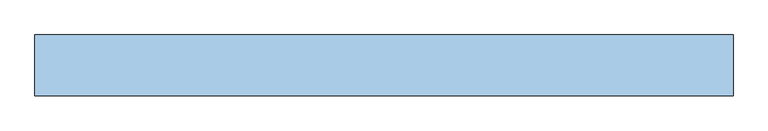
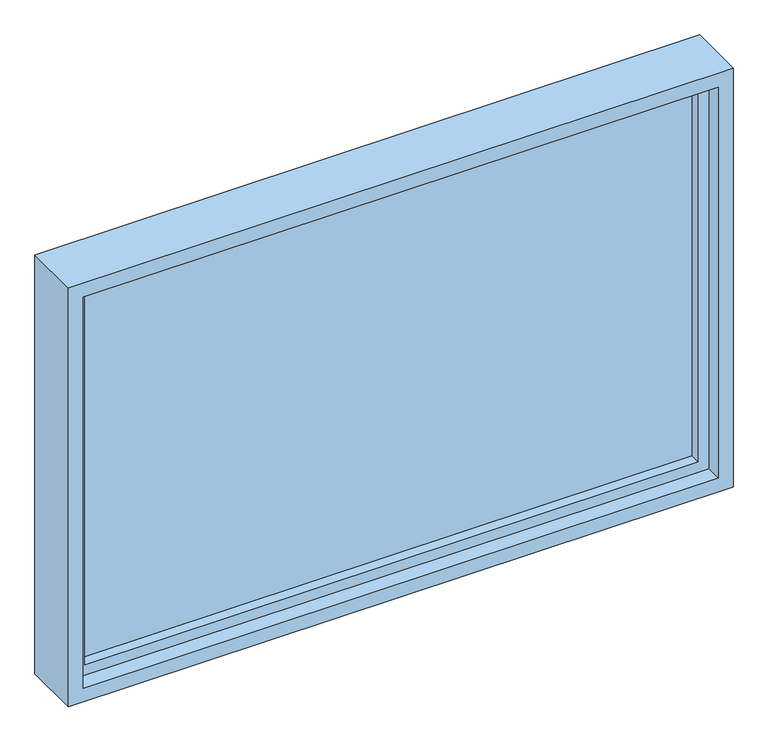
"""IFC4 building model written with IfcOpenShell, lengths in millimetres: window geometry, WD000-창 : WD000-창 1800x1200."""

from ifc_helpers import new_model, si_unit, frame, origin, place, context, project, spatial, polyline, outline, extrude, source, transform, mapped, element, save


def window_07c90ac9(model_context):
    return source(origin(), model_context, "Body", "SweptSolid", [
        extrude(outline(polyline([(830.0, 6.0), (830.0, -6.0), (-830.0, -6.0), (-830.0, 6.0), (830.0, 6.0)])), frame((0.0, 0.0, 870.0), z_axis=(0.0, 0.0, 1.0), x_axis=(1.0, 0.0, 0.0)), (0.0, 0.0, 1.0), 1060.0),
        extrude(outline(polyline([(1960.0, -860.0), (840.0, -860.0), (840.0, 860.0), (1960.0, 860.0), (1960.0, -860.0)]), holes=[polyline([(1930.0, 830.0), (870.0, 830.0), (870.0, -830.0), (1930.0, -830.0), (1930.0, 830.0)])]), frame((0.0, -35.0, 0.0), z_axis=(0.0, 1.0, 0.0), x_axis=(0.0, 0.0, 1.0)), (0.0, 0.0, 1.0), 70.0),
        extrude(outline(polyline([(2000.0, 900.0), (2000.0, -900.0), (800.0, -900.0), (800.0, 900.0), (2000.0, 900.0)]), holes=[polyline([(1960.0, 860.0), (840.0, 860.0), (840.0, -860.0), (1960.0, -860.0), (1960.0, 860.0)])]), frame((0.0, -78.6430223, 0.0), z_axis=(0.0, 1.0, 0.0), x_axis=(0.0, 0.0, 1.0)), (0.0, 0.0, 1.0), 157.2860446),
    ])


if __name__ == "__main__":
    model = new_model("IFC4")
    model_context = context("Model", 3, world=origin())
    ifc_project = project(units=[si_unit("LENGTHUNIT", "METRE", prefix="MILLI")], contexts=[model_context])
    site = spatial("IfcSite", under=ifc_project)
    building = spatial("IfcBuilding", under=site)
    placement = place(None, origin())
    window_shape = window_07c90ac9(model_context)
    element("IfcWindow", 1, ObjectType="WD000-창 : WD000-창 1800x1200", at=placement, inside=building, context=model_context, shape_type="MappedRepresentation", body=[
        mapped(window_shape, transform((0.0, 0.0, 0.0), x_axis=(1.0, 0.0, 0.0), y_axis=(0.0, 1.0, 0.0), z_axis=(0.0, 0.0, 1.0))),
    ])
    save(model, "model.ifc")
